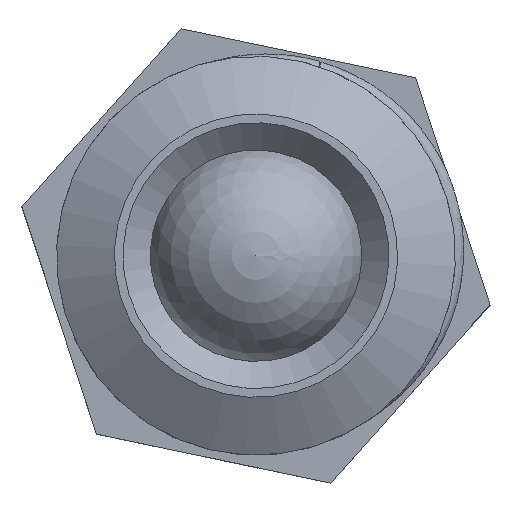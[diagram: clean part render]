
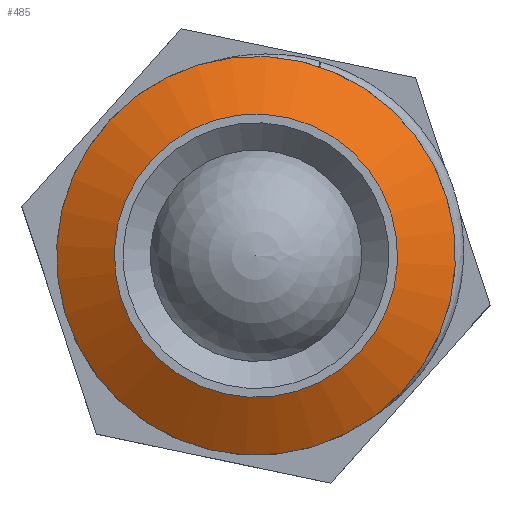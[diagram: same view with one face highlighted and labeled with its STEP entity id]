
A CAD part, top view. The second image highlights one B-rep face of the part: STEP entity #485.
In plain terms, the highlighted conical face has half-angle 58.878 degrees and reference radius 9.15 mm.
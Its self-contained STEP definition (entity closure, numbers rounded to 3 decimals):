
#485 = ADVANCED_FACE( '', ( #1084, #1085 ), #1086, .T. );
#1084 = FACE_BOUND( '', #2337, .T. );
#1085 = FACE_OUTER_BOUND( '', #2338, .T. );
#1086 = CONICAL_SURFACE( '', #2339, 9.15, 1.028 );
#2337 = EDGE_LOOP( '', ( #7626 ) );
#2338 = EDGE_LOOP( '', ( #7627 ) );
#2339 = AXIS2_PLACEMENT_3D( '', #7628, #7629, #7630 );
#7626 = ORIENTED_EDGE( '', *, *, #9730, .T. );
#7627 = ORIENTED_EDGE( '', *, *, #9731, .F. );
#7628 = CARTESIAN_POINT( '', ( 0., 0., 15.4 ) );
#7629 = DIRECTION( '', ( 0., 0., -1. ) );
#7630 = DIRECTION( '', ( -1., 0., 0. ) );
#9730 = EDGE_CURVE( '', #10688, #10688, #10689, .T. );
#9731 = EDGE_CURVE( '', #10690, #10690, #10691, .T. );
#10688 = VERTEX_POINT( '', #12156 );
#10689 = CIRCLE( '', #12157, 6.5 );
#10690 = VERTEX_POINT( '', #12158 );
#10691 = CIRCLE( '', #12159, 9.15 );
#12156 = CARTESIAN_POINT( '', ( -6.5, 0., 17. ) );
#12157 = AXIS2_PLACEMENT_3D( '', #20448, #20449, #20450 );
#12158 = CARTESIAN_POINT( '', ( -9.15, 0., 15.4 ) );
#12159 = AXIS2_PLACEMENT_3D( '', #20451, #20452, #20453 );
#20448 = CARTESIAN_POINT( '', ( 0., 0., 17. ) );
#20449 = DIRECTION( '', ( 0., 0., -1. ) );
#20450 = DIRECTION( '', ( -1., 0., 0. ) );
#20451 = CARTESIAN_POINT( '', ( 0., 0., 15.4 ) );
#20452 = DIRECTION( '', ( 0., 0., -1. ) );
#20453 = DIRECTION( '', ( -1., 0., 0. ) );
